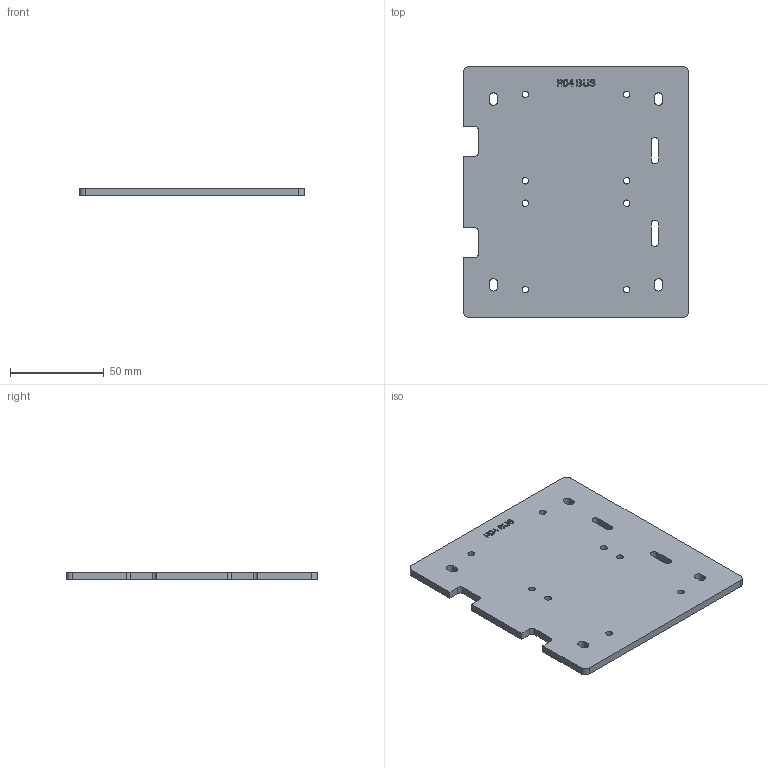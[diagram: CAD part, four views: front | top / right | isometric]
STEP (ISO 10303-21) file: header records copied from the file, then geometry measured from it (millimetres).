
FILE_DESCRIPTION(('Open CASCADE Model'),'2;1');
FILE_NAME('Open CASCADE Shape Model','2026-10-13T11:47:37',('Author'),( 'Open CASCADE'),'Open CASCADE STEP processor 7.8','Open CASCADE 7.8' ,'Unknown');
FILE_SCHEMA(('AUTOMOTIVE_DESIGN { 1 0 10303 214 1 1 1 1 }'));
Length unit declared in the file: millimetre
Products named in the file (1): Open CASCADE STEP translator 7.8 31
Bounding box: 120 x 133.8 x 4 mm (x, y, z)
Volume: 62028.9 mm3; surface area: 34109.5 mm2
Topology: 1 solids, 1 shells, 211 faces, 594 edges, 396 vertices
Faces by surface type: extrusion 104, plane 79, cylinder 28
Full cylindrical faces by diameter (mm): 3.5 x8
Entity records: 16697 total; most frequent: CARTESIAN_POINT 5741, DIRECTION 1596, VECTOR 1254, ORIENTED_EDGE 1188, PCURVE 1188, DEFINITIONAL_REPRESENTATION 1188, LINE 1150, B_SPLINE_CURVE_WITH_KNOTS 624
